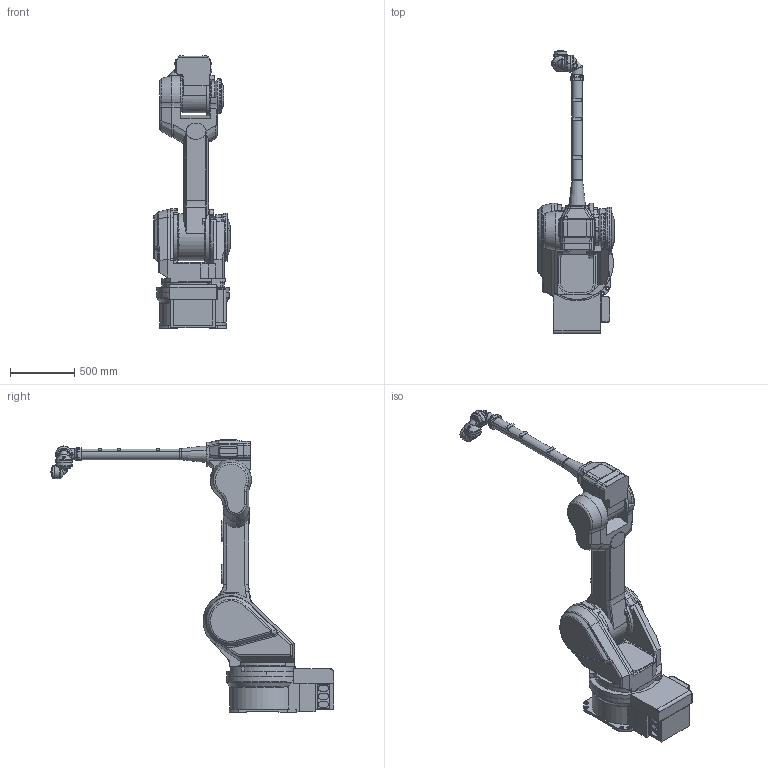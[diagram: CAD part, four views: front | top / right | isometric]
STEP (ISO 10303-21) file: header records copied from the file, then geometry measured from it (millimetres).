
FILE_DESCRIPTION(('CATIA V5 STEP Exchange'),'2;1');
FILE_NAME('L:\■汎用OLPモデルライブラリ\CATIAモデルライブラリ\K_\KF262-A001(L)\KF262-A001(L).stp','2018-04-03T06:51:18+00:00',('none'),('none'),'CATIA Version 5-6 Release 2016 SP4 HF10','CATIA V5 STEP AP203','none');
FILE_SCHEMA(('CONFIG_CONTROL_DESIGN'));
Products named in the file (1): KF262-A001
Assembly tree (7 placements, depth 2):
  KF262-A001
    #57
    #6055
    #12598
    #19906
    #35190
    #40357
    #43280
Bounding box: 596 x 2207 x 2123 mm (x, y, z)
Volume: 302498500 mm3; surface area: 7134022.8 mm2
Topology: 8 solids, 8 shells, 1044 faces, 2728 edges, 1711 vertices
Faces by surface type: plane 456, cylinder 291, bspline 142, torus 78, cone 39, sphere 27, extrusion 11
Entity records: 43744 total; most frequent: CARTESIAN_POINT 20316, ORIENTED_EDGE 5392, DIRECTION 3679, EDGE_CURVE 2696, VERTEX_POINT 1711, AXIS2_PLACEMENT_3D 1550, VECTOR 1341, LINE 1330
